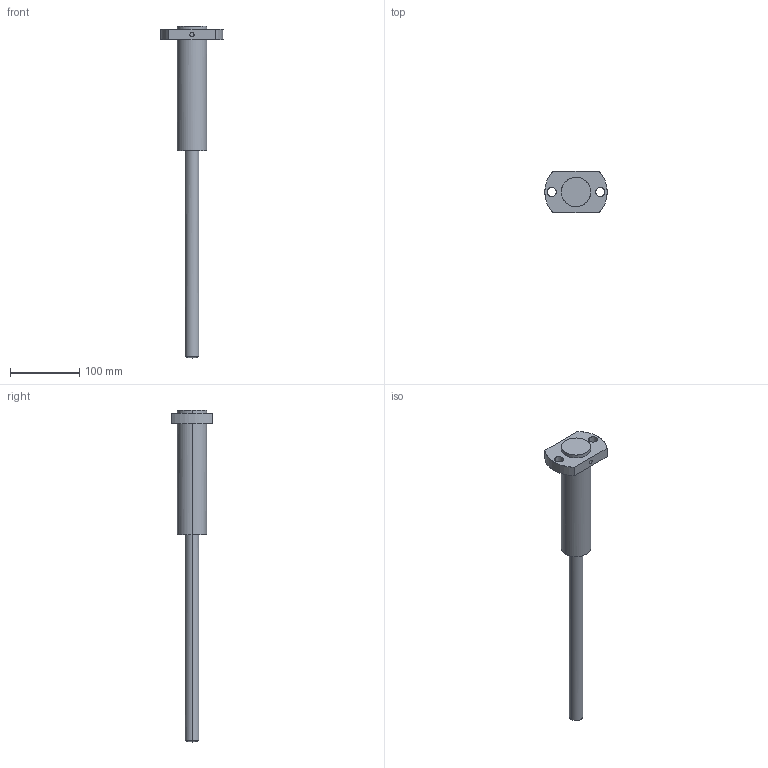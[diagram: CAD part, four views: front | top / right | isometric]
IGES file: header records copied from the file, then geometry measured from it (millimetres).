
Global section: file name: E:\UnigraphicsGraphicData\MISUMI_PRESS-PARTS\IGES\3d_papz20-300-180-160-250_01707_r00.igs; native system: NX V5.0; preprocessor: UGS NX IGES V5.0; author: MISUMI; date: 20110105.162227; units: millimetre
Bounding box: 90 x 60 x 480 mm (x, y, z)
Surface area: 60258.9 mm2 (no closed solid volume)
Topology: 0 solids, 0 shells, 23 faces, 220 edges, 218 vertices
Faces by surface type: bspline 23
